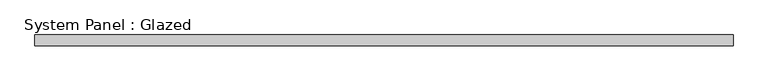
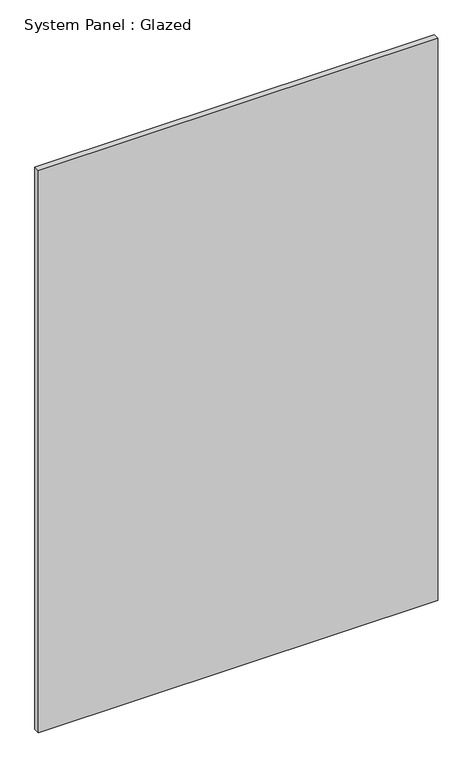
"""IFC4 building model written with IfcOpenShell, lengths in millimetres: plate geometry, System Panel : Glazed."""

from ifc_helpers import new_model, si_unit, origin, origin_with_axes, place, context, project, spatial, polyline, outline, extrude, source, transform, mapped, element, save


def system_panel_glazed_613470c2(model_context):
    return source(origin(), model_context, "Body", "SweptSolid", [
        extrude(outline(polyline([(824.7959145, 19.05), (-824.7959145, 19.05), (-824.7959145, 44.45), (824.7959145, 44.45), (824.7959145, 19.05)])), origin_with_axes(), (0.0, 0.0, 1.0), 2455.3333333),
    ])


if __name__ == "__main__":
    model = new_model("IFC4")
    model_context = context("Model", 3, world=origin())
    ifc_project = project(units=[si_unit("LENGTHUNIT", "METRE", prefix="MILLI")], contexts=[model_context])
    site = spatial("IfcSite", under=ifc_project)
    building = spatial("IfcBuilding", under=site)
    placement = place(None, origin())
    system_panel_glazed_shape = system_panel_glazed_613470c2(model_context)
    element("IfcPlate", 1, ObjectType="System Panel : Glazed", at=placement, inside=building, context=model_context, shape_type="MappedRepresentation", body=[
        mapped(system_panel_glazed_shape, transform((0.0, 0.0, 0.0), x_axis=(1.0, 0.0, 0.0), y_axis=(0.0, 1.0, 0.0), z_axis=(0.0, 0.0, 1.0))),
    ])
    save(model, "model.ifc")
